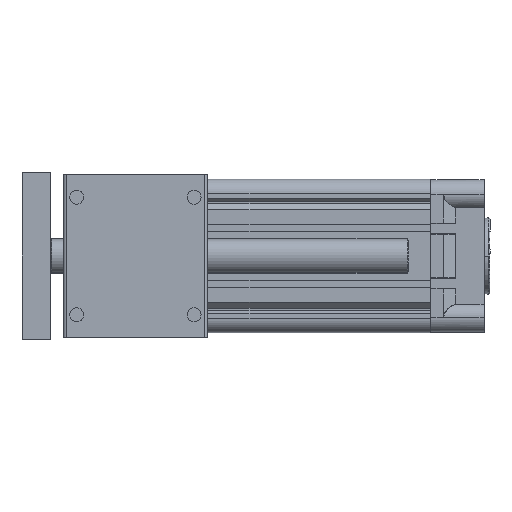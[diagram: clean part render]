
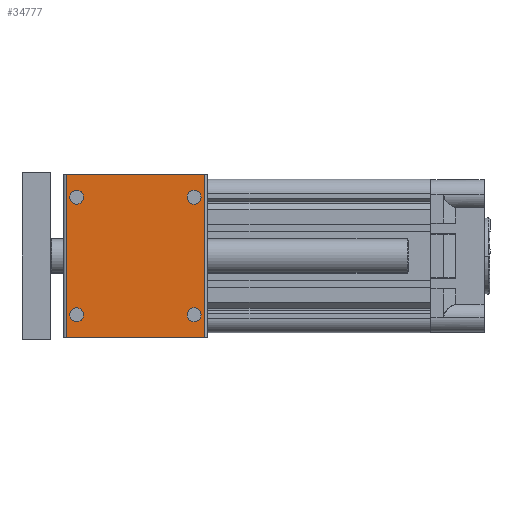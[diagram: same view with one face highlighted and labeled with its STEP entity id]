
A CAD part, left-side view. The second image highlights one B-rep face of the part: STEP entity #34777.
In plain terms, the highlighted planar face has unit normal (-1, 0, 0).
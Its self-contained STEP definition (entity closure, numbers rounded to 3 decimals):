
#307 = CARTESIAN_POINT ( 'NONE',  ( 0., -4.5, 101.75 ) ) ;
#309 = DIRECTION ( 'NONE',  ( 0., 1., 0. ) ) ;
#440 = ORIENTED_EDGE ( 'NONE', *, *, #12968, .T. ) ;
#1625 = DIRECTION ( 'NONE',  ( -1., 0., 0. ) ) ;
#2557 = EDGE_LOOP ( 'NONE', ( #440, #32676, #8302, #24070 ) ) ;
#2581 = EDGE_CURVE ( 'NONE', #3362, #15154, #7616, .T. ) ;
#2876 = VERTEX_POINT ( 'NONE', #37040 ) ;
#3058 = CARTESIAN_POINT ( 'NONE',  ( 0., -94.5, 101.75 ) ) ;
#3362 = VERTEX_POINT ( 'NONE', #4404 ) ;
#3371 = DIRECTION ( 'NONE',  ( 0., -1., 0. ) ) ;
#3750 = CARTESIAN_POINT ( 'NONE',  ( 0., -102., 0. ) ) ;
#4352 = FACE_BOUND ( 'NONE', #18150, .T. ) ;
#4404 = CARTESIAN_POINT ( 'NONE',  ( 0., -14.5, 16.75 ) ) ;
#4732 = CIRCLE ( 'NONE', #33477, 5. ) ;
#5106 = CIRCLE ( 'NONE', #44628, 5. ) ;
#6365 = PLANE ( 'NONE',  #29587 ) ;
#6742 = DIRECTION ( 'NONE',  ( 0., 0., -1. ) ) ;
#6777 = FACE_BOUND ( 'NONE', #25049, .T. ) ;
#6962 = DIRECTION ( 'NONE',  ( 0., -1., 0. ) ) ;
#7616 = CIRCLE ( 'NONE', #17822, 5. ) ;
#7803 = AXIS2_PLACEMENT_3D ( 'NONE', #46764, #23562, #309 ) ;
#8302 = ORIENTED_EDGE ( 'NONE', *, *, #20938, .F. ) ;
#8679 = CARTESIAN_POINT ( 'NONE',  ( 0., -94.5, 16.75 ) ) ;
#9986 = CIRCLE ( 'NONE', #39412, 5. ) ;
#10291 = CARTESIAN_POINT ( 'NONE',  ( 0., -2., 118.5 ) ) ;
#12588 = DIRECTION ( 'NONE',  ( 0., 1., 0. ) ) ;
#12622 = VERTEX_POINT ( 'NONE', #45187 ) ;
#12964 = VERTEX_POINT ( 'NONE', #47871 ) ;
#12968 = EDGE_CURVE ( 'NONE', #14821, #14918, #27836, .T. ) ;
#13118 = CARTESIAN_POINT ( 'NONE',  ( 0., -2., 0. ) ) ;
#13330 = DIRECTION ( 'NONE',  ( -1., 0., 0. ) ) ;
#13655 = DIRECTION ( 'NONE',  ( -1., 0., 0. ) ) ;
#14178 = DIRECTION ( 'NONE',  ( 0., 1., 0. ) ) ;
#14331 = CIRCLE ( 'NONE', #15441, 5. ) ;
#14674 = FACE_OUTER_BOUND ( 'NONE', #2557, .T. ) ;
#14821 = VERTEX_POINT ( 'NONE', #45827 ) ;
#14918 = VERTEX_POINT ( 'NONE', #3750 ) ;
#15154 = VERTEX_POINT ( 'NONE', #24276 ) ;
#15441 = AXIS2_PLACEMENT_3D ( 'NONE', #8679, #35795, #12588 ) ;
#15576 = EDGE_CURVE ( 'NONE', #38106, #48161, #25837, .T. ) ;
#15660 = EDGE_CURVE ( 'NONE', #44208, #14918, #32491, .T. ) ;
#16171 = VERTEX_POINT ( 'NONE', #20108 ) ;
#16761 = ORIENTED_EDGE ( 'NONE', *, *, #45380, .F. ) ;
#17048 = DIRECTION ( 'NONE',  ( 0., -1., 0. ) ) ;
#17822 = AXIS2_PLACEMENT_3D ( 'NONE', #49857, #26615, #3371 ) ;
#18150 = EDGE_LOOP ( 'NONE', ( #30615, #25276 ) ) ;
#18374 = DIRECTION ( 'NONE',  ( -1., 0., 0. ) ) ;
#20108 = CARTESIAN_POINT ( 'NONE',  ( 0., -89.5, 16.75 ) ) ;
#20895 = EDGE_LOOP ( 'NONE', ( #49326, #16761 ) ) ;
#20938 = EDGE_CURVE ( 'NONE', #12964, #44208, #40717, .T. ) ;
#22212 = VECTOR ( 'NONE', #43179, 1000. ) ;
#23562 = DIRECTION ( 'NONE',  ( -1., 0., 0. ) ) ;
#24070 = ORIENTED_EDGE ( 'NONE', *, *, #41478, .T. ) ;
#24276 = CARTESIAN_POINT ( 'NONE',  ( 0., -4.5, 16.75 ) ) ;
#24620 = VECTOR ( 'NONE', #6742, 1000. ) ;
#24875 = CARTESIAN_POINT ( 'NONE',  ( 0., -9.5, 16.75 ) ) ;
#24991 = FACE_BOUND ( 'NONE', #28997, .T. ) ;
#25049 = EDGE_LOOP ( 'NONE', ( #29136, #42461 ) ) ;
#25276 = ORIENTED_EDGE ( 'NONE', *, *, #42213, .F. ) ;
#25837 = CIRCLE ( 'NONE', #7803, 5. ) ;
#26216 = AXIS2_PLACEMENT_3D ( 'NONE', #3058, #30180, #6962 ) ;
#26455 = EDGE_CURVE ( 'NONE', #16171, #29655, #14331, .T. ) ;
#26615 = DIRECTION ( 'NONE',  ( -1., 0., 0. ) ) ;
#27836 = LINE ( 'NONE', #13118, #48458 ) ;
#28734 = DIRECTION ( 'NONE',  ( 0., -1., 0. ) ) ;
#28997 = EDGE_LOOP ( 'NONE', ( #45574, #46853 ) ) ;
#29136 = ORIENTED_EDGE ( 'NONE', *, *, #50306, .F. ) ;
#29535 = AXIS2_PLACEMENT_3D ( 'NONE', #24875, #1625, #28734 ) ;
#29587 = AXIS2_PLACEMENT_3D ( 'NONE', #10291, #41117, #14178 ) ;
#29655 = VERTEX_POINT ( 'NONE', #34824 ) ;
#30180 = DIRECTION ( 'NONE',  ( -1., 0., 0. ) ) ;
#30420 = VECTOR ( 'NONE', #17048, 1000. ) ;
#30615 = ORIENTED_EDGE ( 'NONE', *, *, #50230, .F. ) ;
#32491 = LINE ( 'NONE', #47115, #22212 ) ;
#32676 = ORIENTED_EDGE ( 'NONE', *, *, #15660, .F. ) ;
#33477 = AXIS2_PLACEMENT_3D ( 'NONE', #41559, #18374, #45483 ) ;
#34694 = CARTESIAN_POINT ( 'NONE',  ( 0., -102., 118.5 ) ) ;
#34777 = ADVANCED_FACE ( 'NONE', ( #24991, #4352, #6777, #44381, #14674 ), #6365, .F. ) ;
#34824 = CARTESIAN_POINT ( 'NONE',  ( 0., -99.5, 16.75 ) ) ;
#34910 = LINE ( 'NONE', #45579, #24620 ) ;
#35795 = DIRECTION ( 'NONE',  ( -1., 0., 0. ) ) ;
#36413 = CARTESIAN_POINT ( 'NONE',  ( 0., -14.5, 101.75 ) ) ;
#36523 = CARTESIAN_POINT ( 'NONE',  ( 0., -94.5, 101.75 ) ) ;
#36863 = CARTESIAN_POINT ( 'NONE',  ( 0., -9.5, 101.75 ) ) ;
#36951 = CIRCLE ( 'NONE', #29535, 5. ) ;
#37040 = CARTESIAN_POINT ( 'NONE',  ( 0., -89.5, 101.75 ) ) ;
#37663 = CIRCLE ( 'NONE', #26216, 5. ) ;
#38106 = VERTEX_POINT ( 'NONE', #307 ) ;
#39412 = AXIS2_PLACEMENT_3D ( 'NONE', #36523, #13330, #40442 ) ;
#40214 = DIRECTION ( 'NONE',  ( 0., -1., 0. ) ) ;
#40241 = CARTESIAN_POINT ( 'NONE',  ( 0., -2., 118.5 ) ) ;
#40442 = DIRECTION ( 'NONE',  ( 0., -1., 0. ) ) ;
#40717 = LINE ( 'NONE', #40241, #30420 ) ;
#40762 = DIRECTION ( 'NONE',  ( 0., 1., 0. ) ) ;
#41117 = DIRECTION ( 'NONE',  ( 1., 0., 0. ) ) ;
#41478 = EDGE_CURVE ( 'NONE', #12964, #14821, #34910, .T. ) ;
#41559 = CARTESIAN_POINT ( 'NONE',  ( 0., -94.5, 16.75 ) ) ;
#42213 = EDGE_CURVE ( 'NONE', #2876, #12622, #37663, .T. ) ;
#42461 = ORIENTED_EDGE ( 'NONE', *, *, #15576, .F. ) ;
#43179 = DIRECTION ( 'NONE',  ( 0., 0., -1. ) ) ;
#44208 = VERTEX_POINT ( 'NONE', #34694 ) ;
#44381 = FACE_BOUND ( 'NONE', #20895, .T. ) ;
#44628 = AXIS2_PLACEMENT_3D ( 'NONE', #36863, #13655, #40762 ) ;
#45187 = CARTESIAN_POINT ( 'NONE',  ( 0., -99.5, 101.75 ) ) ;
#45380 = EDGE_CURVE ( 'NONE', #15154, #3362, #36951, .T. ) ;
#45483 = DIRECTION ( 'NONE',  ( 0., 1., 0. ) ) ;
#45574 = ORIENTED_EDGE ( 'NONE', *, *, #46857, .F. ) ;
#45579 = CARTESIAN_POINT ( 'NONE',  ( 0., -2., 118.5 ) ) ;
#45827 = CARTESIAN_POINT ( 'NONE',  ( 0., -2., 0. ) ) ;
#46764 = CARTESIAN_POINT ( 'NONE',  ( 0., -9.5, 101.75 ) ) ;
#46853 = ORIENTED_EDGE ( 'NONE', *, *, #26455, .F. ) ;
#46857 = EDGE_CURVE ( 'NONE', #29655, #16171, #4732, .T. ) ;
#47115 = CARTESIAN_POINT ( 'NONE',  ( 0., -102., 118.5 ) ) ;
#47871 = CARTESIAN_POINT ( 'NONE',  ( 0., -2., 118.5 ) ) ;
#48161 = VERTEX_POINT ( 'NONE', #36413 ) ;
#48458 = VECTOR ( 'NONE', #40214, 1000. ) ;
#49326 = ORIENTED_EDGE ( 'NONE', *, *, #2581, .F. ) ;
#49857 = CARTESIAN_POINT ( 'NONE',  ( 0., -9.5, 16.75 ) ) ;
#50230 = EDGE_CURVE ( 'NONE', #12622, #2876, #9986, .T. ) ;
#50306 = EDGE_CURVE ( 'NONE', #48161, #38106, #5106, .T. ) ;
